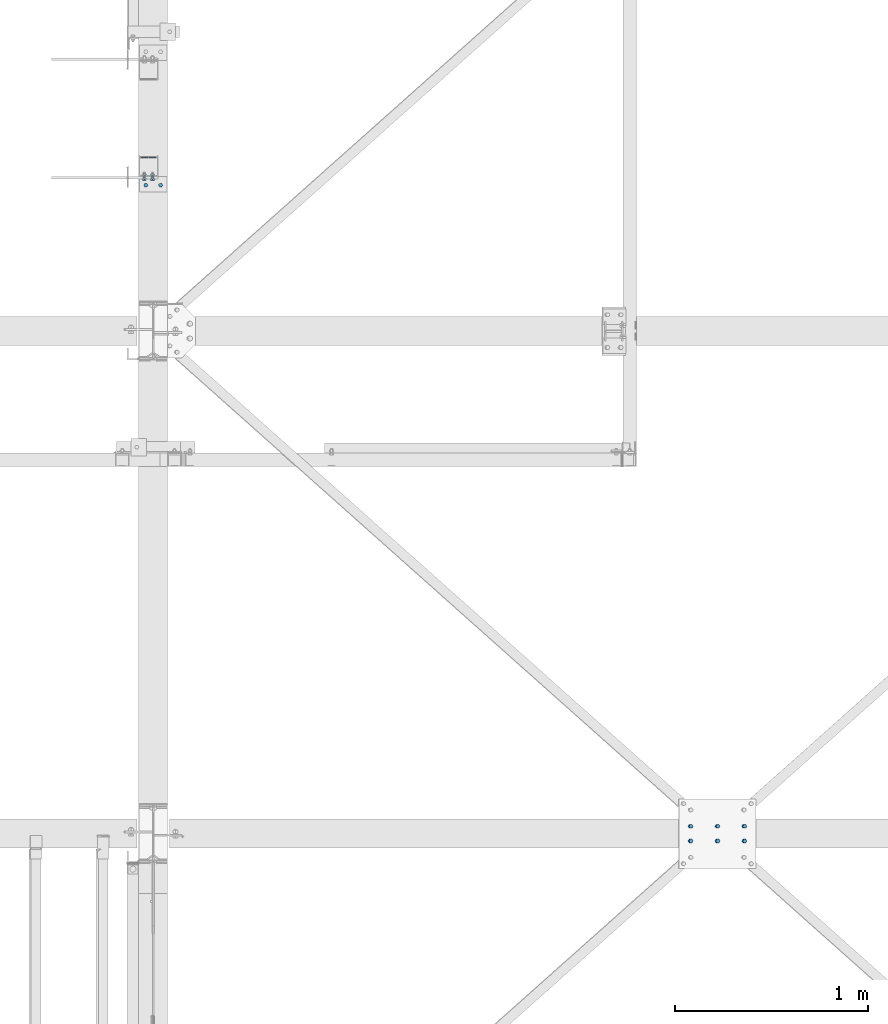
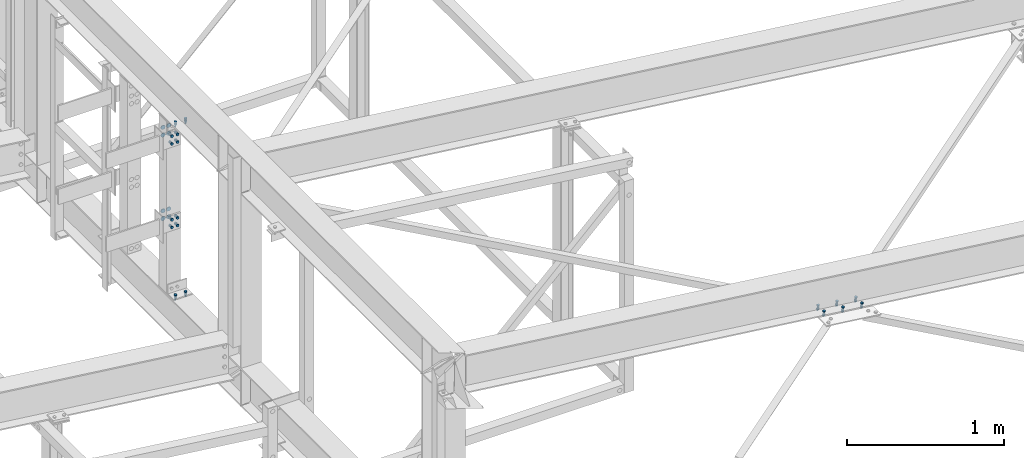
# One storey, part 156 of 3134: 7 mechanical fasteners, 4 elements without a shape of their own.
"""IFC2X3 building model written with IfcOpenShell, lengths in millimetres."""

from ifc_helpers import new_model, si_unit, frame, origin_with_axes, place, context, subcontext, project, spatial, faceted_brep, source, transform, mapped, material, type_object, element, aggregate, save


model = new_model("IFC2X3")

# Units and contexts
model_context = context("Model", 3, precision=1e-05, world=origin_with_axes())
body_context = subcontext(model_context, "Body", "Model", "MODEL_VIEW")
ifc_project = project(units=[si_unit("LENGTHUNIT", "METRE", prefix="MILLI"), si_unit("AREAUNIT", "SQUARE_METRE"), si_unit("VOLUMEUNIT", "CUBIC_METRE"), si_unit("MASSUNIT", "GRAM", prefix="KILO"), si_unit("TIMEUNIT", "SECOND"), si_unit("PLANEANGLEUNIT", "RADIAN"), si_unit("SOLIDANGLEUNIT", "STERADIAN"), si_unit("THERMODYNAMICTEMPERATUREUNIT", "DEGREE_CELSIUS"), si_unit("LUMINOUSINTENSITYUNIT", "LUMEN")], contexts=[model_context])

# Site, building, storey
site_placement = place(None, origin_with_axes())
site = spatial("IfcSite", under=ifc_project, at=site_placement, CompositionType="ELEMENT")
building_placement = place(site_placement, origin_with_axes())
building = spatial("IfcBuilding", under=site, at=building_placement, Name="Undefined", CompositionType="ELEMENT")
storey_placement = place(building_placement, origin_with_axes())
storey = spatial("IfcBuildingStorey", under=building, at=storey_placement, Name="Undefined", CompositionType="ELEMENT", Elevation=0.0)

# Assembly, mechanical fastener
assembly_1_placement = place(storey_placement, origin_with_axes())
assembly_1 = element("IfcElementAssembly", 1, at=assembly_1_placement, inside=storey, AssemblyPlace="NOTDEFINED", PredefinedType="RIGID_FRAME")
ifc_material = material(Name="8.8")
mechanical_fastener_type = type_object("IfcMechanicalFastenerType", Name="Bolt assembly")
shared_shape_1 = source(origin_with_axes(), body_context, "Body", "Brep", [
    faceted_brep([(10.9696551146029, -8.0, 0.0), (5.48482755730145, -8.0, 9.5), (-5.48482755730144, -8.0, 9.5), (-10.9696551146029, -8.0, 1.34339530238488e-15), (-5.48482755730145, -8.0, -9.5), (5.48482755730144, -8.0, -9.50000000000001), (5.48482755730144, 0.0, -9.50000000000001), (-5.48482755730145, 0.0, -9.5), (-10.9696551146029, 0.0, 1.34339530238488e-15), (-5.48482755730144, 0.0, 9.5), (5.48482755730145, 0.0, 9.5), (10.9696551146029, 0.0, 0.0), (6.0, 0.0, 0.0), (5.19615242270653, 0.0, 3.00000000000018), (2.99999999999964, 0.0, 5.19615242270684), (-6.21801588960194e-13, 0.0, 6.0), (-3.00000000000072, 0.0, 5.19615242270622), (-5.19615242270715, 0.0, 2.9999999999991), (-6.0, 0.0, -1.24360317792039e-12), (-5.19615242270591, 0.0, -3.00000000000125), (-2.99999999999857, 0.0, -5.19615242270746), (1.85874342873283e-12, 0.0, -6.0), (3.00000000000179, 0.0, -5.1961524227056), (5.19615242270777, 0.0, -2.99999999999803), (5.19615242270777, 35.0, -2.99999999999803), (3.00000000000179, 35.0, -5.1961524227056), (1.85874342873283e-12, 35.0, -6.0), (-2.99999999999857, 35.0, -5.19615242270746), (-5.19615242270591, 35.0, -3.00000000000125), (-6.0, 35.0, -1.24360317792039e-12), (-5.19615242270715, 35.0, 2.9999999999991), (-3.00000000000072, 35.0, 5.19615242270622), (-6.21801588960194e-13, 35.0, 6.0), (2.99999999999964, 35.0, 5.19615242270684), (5.19615242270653, 35.0, 3.00000000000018), (6.0, 35.0, 0.0), (10.9696551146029, 8.0, 0.0), (5.48482755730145, 8.0, 9.5), (-5.48482755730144, 8.0, 9.5), (-10.9696551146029, 8.0, 1.34339530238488e-15), (-5.48482755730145, 8.0, -9.5), (5.48482755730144, 8.0, -9.50000000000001), (5.48482755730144, 18.0, -9.50000000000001), (-5.48482755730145, 18.0, -9.5), (-10.9696551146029, 18.0, 1.34339530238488e-15), (-5.48482755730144, 18.0, 9.5), (5.48482755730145, 18.0, 9.5), (10.9696551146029, 18.0, 0.0)], [[[0, 1, 2, 3, 4, 5]], [[6, 7, 8, 9, 10, 11]], [[0, 11, 10, 1]], [[1, 10, 9, 2]], [[2, 9, 8, 3]], [[3, 8, 7, 4]], [[4, 7, 6, 5]], [[5, 6, 11, 0]], [[12, 13, 14, 15, 16, 17, 18, 19, 20, 21, 22, 23]], [[24, 25, 26, 27, 28, 29, 30, 31, 32, 33, 34, 35]], [[12, 35, 34, 13]], [[13, 34, 33, 14]], [[14, 33, 32, 15]], [[15, 32, 31, 16]], [[16, 31, 30, 17]], [[17, 30, 29, 18]], [[18, 29, 28, 19]], [[19, 28, 27, 20]], [[20, 27, 26, 21]], [[21, 26, 25, 22]], [[22, 25, 24, 23]], [[23, 24, 35, 12]], [[36, 37, 38, 39, 40, 41]], [[42, 43, 44, 45, 46, 47]], [[36, 47, 46, 37]], [[37, 46, 45, 38]], [[38, 45, 44, 39]], [[39, 44, 43, 40]], [[40, 43, 42, 41]], [[41, 42, 47, 36]]]),
    faceted_brep([(7.0, 0.0, 0.0), (6.06217782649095, 0.0, 3.50000000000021), (3.49999999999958, 0.0, 6.06217782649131), (-7.25435187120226e-13, 0.0, 7.0), (-3.50000000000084, 0.0, 6.06217782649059), (-6.06217782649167, 0.0, 3.49999999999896), (-7.0, 0.0, -1.45087037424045e-12), (-6.06217782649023, 0.0, -3.50000000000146), (-3.49999999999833, 0.0, -6.06217782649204), (2.1685340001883e-12, 0.0, -7.0), (3.50000000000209, 0.0, -6.06217782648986), (6.0621778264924, 0.0, -3.4999999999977), (6.0621778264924, 8.1, -3.4999999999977), (3.50000000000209, 8.1, -6.06217782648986), (2.1685340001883e-12, 8.1, -7.0), (-3.49999999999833, 8.1, -6.06217782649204), (-6.06217782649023, 8.1, -3.50000000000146), (-7.0, 8.1, -1.45087037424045e-12), (-6.06217782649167, 8.1, 3.49999999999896), (-3.50000000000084, 8.1, 6.06217782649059), (-7.25435187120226e-13, 8.1, 7.0), (3.49999999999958, 8.1, 6.06217782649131), (6.06217782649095, 8.1, 3.50000000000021), (7.0, 8.1, 0.0)], [[[0, 1, 2, 3, 4, 5, 6, 7, 8, 9, 10, 11]], [[12, 13, 14, 15, 16, 17, 18, 19, 20, 21, 22, 23]], [[0, 23, 22, 1]], [[1, 22, 21, 2]], [[2, 21, 20, 3]], [[3, 20, 19, 4]], [[4, 19, 18, 5]], [[5, 18, 17, 6]], [[6, 17, 16, 7]], [[7, 16, 15, 8]], [[8, 15, 14, 9]], [[9, 14, 13, 10]], [[10, 13, 12, 11]], [[11, 12, 23, 0]]]),
])
mechanical_fastener_1_placement = place(assembly_1_placement, frame((55837.0, 25405.0, 5593.0), z_axis=(0.0, 1.0, 0.0), x_axis=(1.0, 0.0, 0.0)))
mechanical_fastener_1 = element("IfcMechanicalFastener", 2, at=mechanical_fastener_1_placement, type_object=mechanical_fastener_type, material=ifc_material, Name="Bolt assembly", NominalDiameter=12.0, NominalLength=35.0, context=body_context, shape_type="MappedRepresentation", body=[
    mapped(shared_shape_1, transform((0.0, 0.0, 0.0))),
    mapped(shared_shape_1, transform((76.0, 0.0, 0.0))),
])
aggregate(assembly_1, [mechanical_fastener_1])

# Assembly, mechanical fasteners
assembly_2_placement = place(storey_placement, origin_with_axes())
assembly_2 = element("IfcElementAssembly", 3, at=assembly_2_placement, inside=storey, AssemblyPlace="NOTDEFINED", PredefinedType="RIGID_FRAME")
shared_shape_2 = source(origin_with_axes(), body_context, "Body", "Brep", [
    faceted_brep([(16.5, -4.0, 0.0), (14.289419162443, -4.0, 8.25000000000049), (8.24999999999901, -4.0, 14.2894191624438), (-1.70995436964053e-12, -4.0, 16.5), (-8.25000000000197, -4.0, 14.2894191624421), (-14.2894191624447, -4.0, 8.24999999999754), (-16.5, -4.0, -3.41990873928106e-12), (-14.2894191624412, -4.0, -8.25000000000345), (-8.24999999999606, -4.0, -14.2894191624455), (5.11154442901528e-12, -4.0, -16.5), (8.25000000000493, -4.0, -14.2894191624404), (14.2894191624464, -4.0, -8.24999999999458), (14.2894191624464, 0.1, -8.24999999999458), (8.25000000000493, 0.1, -14.2894191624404), (5.11154442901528e-12, 0.1, -16.5), (-8.24999999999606, 0.1, -14.2894191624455), (-14.2894191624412, 0.1, -8.25000000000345), (-16.5, 0.1, -3.41990873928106e-12), (-14.2894191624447, 0.1, 8.24999999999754), (-8.25000000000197, 0.1, 14.2894191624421), (-1.70995436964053e-12, 0.1, 16.5), (8.24999999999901, 0.1, 14.2894191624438), (14.289419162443, 0.1, 8.25000000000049), (16.5, 0.1, 0.0)], [[[0, 1, 2, 3, 4, 5, 6, 7, 8, 9, 10, 11]], [[12, 13, 14, 15, 16, 17, 18, 19, 20, 21, 22, 23]], [[0, 23, 22, 1]], [[1, 22, 21, 2]], [[2, 21, 20, 3]], [[3, 20, 19, 4]], [[4, 19, 18, 5]], [[5, 18, 17, 6]], [[6, 17, 16, 7]], [[7, 16, 15, 8]], [[8, 15, 14, 9]], [[9, 14, 13, 10]], [[10, 13, 12, 11]], [[11, 12, 23, 0]]]),
])
mechanical_fastener_2_placement = place(assembly_2_placement, frame((55850.0, 25550.0, 5470.0), z_axis=(1.0, 0.0, 0.0), x_axis=(0.0, 0.0, -1.0)))
mechanical_fastener_2 = element("IfcMechanicalFastener", 4, at=mechanical_fastener_2_placement, type_object=mechanical_fastener_type, material=ifc_material, Name="Bolt assembly", NominalDiameter=30.0, NominalLength=4.0, context=body_context, shape_type="MappedRepresentation", body=[
    mapped(shared_shape_2, transform((0.0, 0.0, -21.0))),
    mapped(shared_shape_2, transform((60.0, 0.0, -21.0))),
    mapped(shared_shape_2, transform((0.0, 0.0, 21.0))),
    mapped(shared_shape_2, transform((60.0, 0.0, 21.0))),
])
mechanical_fastener_3_placement = place(assembly_2_placement, frame((55850.0, 25550.0, 4820.0), z_axis=(1.0, 0.0, 0.0), x_axis=(0.0, 0.0, -1.0)))
mechanical_fastener_3 = element("IfcMechanicalFastener", 5, at=mechanical_fastener_3_placement, type_object=mechanical_fastener_type, material=ifc_material, Name="Bolt assembly", NominalDiameter=30.0, NominalLength=4.0, context=body_context, shape_type="MappedRepresentation", body=[
    mapped(shared_shape_2, transform((0.0, 0.0, -21.0))),
    mapped(shared_shape_2, transform((60.0, 0.0, -21.0))),
    mapped(shared_shape_2, transform((0.0, 0.0, 21.0))),
    mapped(shared_shape_2, transform((60.0, 0.0, 21.0))),
])
shared_shape_3 = source(origin_with_axes(), body_context, "Body", "Brep", [
    faceted_brep([(10.9696551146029, -20.0, 0.0), (5.48482755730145, -20.0, 9.5), (-5.48482755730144, -20.0, 9.5), (-10.9696551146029, -20.0, 1.34339530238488e-15), (-5.48482755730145, -20.0, -9.5), (5.48482755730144, -20.0, -9.50000000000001), (5.48482755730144, -12.0, -9.50000000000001), (-5.48482755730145, -12.0, -9.5), (-10.9696551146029, -12.0, 1.34339530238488e-15), (-5.48482755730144, -12.0, 9.5), (5.48482755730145, -12.0, 9.5), (10.9696551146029, -12.0, 0.0), (6.0, -12.0, 0.0), (5.19615242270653, -12.0, 3.00000000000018), (2.99999999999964, -12.0, 5.19615242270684), (-6.21801588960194e-13, -12.0, 6.0), (-3.00000000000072, -12.0, 5.19615242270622), (-5.19615242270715, -12.0, 2.9999999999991), (-6.0, -12.0, -1.24360317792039e-12), (-5.19615242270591, -12.0, -3.00000000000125), (-2.99999999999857, -12.0, -5.19615242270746), (1.85874342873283e-12, -12.0, -6.0), (3.00000000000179, -12.0, -5.1961524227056), (5.19615242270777, -12.0, -2.99999999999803), (5.19615242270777, 18.0, -2.99999999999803), (3.00000000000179, 18.0, -5.1961524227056), (1.85874342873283e-12, 18.0, -6.0), (-2.99999999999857, 18.0, -5.19615242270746), (-5.19615242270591, 18.0, -3.00000000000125), (-6.0, 18.0, -1.24360317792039e-12), (-5.19615242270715, 18.0, 2.9999999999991), (-3.00000000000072, 18.0, 5.19615242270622), (-6.21801588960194e-13, 18.0, 6.0), (2.99999999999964, 18.0, 5.19615242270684), (5.19615242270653, 18.0, 3.00000000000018), (6.0, 18.0, 0.0), (10.9696551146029, 4.00000000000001, 0.0), (5.48482755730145, 4.00000000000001, 9.5), (-5.48482755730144, 4.00000000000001, 9.5), (-10.9696551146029, 4.00000000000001, 1.34339530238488e-15), (-5.48482755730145, 4.00000000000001, -9.5), (5.48482755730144, 4.00000000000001, -9.50000000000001), (5.48482755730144, 14.0, -9.50000000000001), (-5.48482755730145, 14.0, -9.5), (-10.9696551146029, 14.0, 1.34339530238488e-15), (-5.48482755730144, 14.0, 9.5), (5.48482755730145, 14.0, 9.5), (10.9696551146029, 14.0, 0.0)], [[[0, 1, 2, 3, 4, 5]], [[6, 7, 8, 9, 10, 11]], [[0, 11, 10, 1]], [[1, 10, 9, 2]], [[2, 9, 8, 3]], [[3, 8, 7, 4]], [[4, 7, 6, 5]], [[5, 6, 11, 0]], [[12, 13, 14, 15, 16, 17, 18, 19, 20, 21, 22, 23]], [[24, 25, 26, 27, 28, 29, 30, 31, 32, 33, 34, 35]], [[12, 35, 34, 13]], [[13, 34, 33, 14]], [[14, 33, 32, 15]], [[15, 32, 31, 16]], [[16, 31, 30, 17]], [[17, 30, 29, 18]], [[18, 29, 28, 19]], [[19, 28, 27, 20]], [[20, 27, 26, 21]], [[21, 26, 25, 22]], [[22, 25, 24, 23]], [[23, 24, 35, 12]], [[36, 37, 38, 39, 40, 41]], [[42, 43, 44, 45, 46, 47]], [[36, 47, 46, 37]], [[37, 46, 45, 38]], [[38, 45, 44, 39]], [[39, 44, 43, 40]], [[40, 43, 42, 41]], [[41, 42, 47, 36]]]),
    faceted_brep([(7.0, -11.9, 0.0), (6.06217782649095, -11.9, 3.50000000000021), (3.49999999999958, -11.9, 6.06217782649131), (-7.25435187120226e-13, -11.9, 7.0), (-3.50000000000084, -11.9, 6.06217782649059), (-6.06217782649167, -11.9, 3.49999999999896), (-7.0, -11.9, -1.45087037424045e-12), (-6.06217782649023, -11.9, -3.50000000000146), (-3.49999999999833, -11.9, -6.06217782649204), (2.1685340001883e-12, -11.9, -7.0), (3.50000000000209, -11.9, -6.06217782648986), (6.0621778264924, -11.9, -3.4999999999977), (6.0621778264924, 0.0999999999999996, -3.4999999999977), (3.50000000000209, 0.0999999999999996, -6.06217782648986), (2.1685340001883e-12, 0.0999999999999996, -7.0), (-3.49999999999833, 0.0999999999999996, -6.06217782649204), (-6.06217782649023, 0.0999999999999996, -3.50000000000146), (-7.0, 0.0999999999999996, -1.45087037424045e-12), (-6.06217782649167, 0.0999999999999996, 3.49999999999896), (-3.50000000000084, 0.0999999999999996, 6.06217782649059), (-7.25435187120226e-13, 0.0999999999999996, 7.0), (3.49999999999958, 0.0999999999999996, 6.06217782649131), (6.06217782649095, 0.0999999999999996, 3.50000000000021), (7.0, 0.0999999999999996, 0.0), (7.0, -0.1, 0.0), (6.06217782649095, -0.1, 3.50000000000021), (3.49999999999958, -0.1, 6.06217782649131), (-7.25435187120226e-13, -0.1, 7.0), (-3.50000000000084, -0.1, 6.06217782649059), (-6.06217782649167, -0.1, 3.49999999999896), (-7.0, -0.1, -1.45087037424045e-12), (-6.06217782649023, -0.1, -3.50000000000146), (-3.49999999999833, -0.1, -6.06217782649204), (2.1685340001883e-12, -0.1, -7.0), (3.50000000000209, -0.1, -6.06217782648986), (6.0621778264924, -0.1, -3.4999999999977), (6.0621778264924, 4.00000000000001, -3.4999999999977), (3.50000000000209, 4.00000000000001, -6.06217782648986), (2.1685340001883e-12, 4.00000000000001, -7.0), (-3.49999999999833, 4.00000000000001, -6.06217782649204), (-6.06217782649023, 4.00000000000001, -3.50000000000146), (-7.0, 4.00000000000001, -1.45087037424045e-12), (-6.06217782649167, 4.00000000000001, 3.49999999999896), (-3.50000000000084, 4.00000000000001, 6.06217782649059), (-7.25435187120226e-13, 4.00000000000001, 7.0), (3.49999999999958, 4.00000000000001, 6.06217782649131), (6.06217782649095, 4.00000000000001, 3.50000000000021), (7.0, 4.00000000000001, 0.0)], [[[0, 1, 2, 3, 4, 5, 6, 7, 8, 9, 10, 11]], [[12, 13, 14, 15, 16, 17, 18, 19, 20, 21, 22, 23]], [[0, 23, 22, 1]], [[1, 22, 21, 2]], [[2, 21, 20, 3]], [[3, 20, 19, 4]], [[4, 19, 18, 5]], [[5, 18, 17, 6]], [[6, 17, 16, 7]], [[7, 16, 15, 8]], [[8, 15, 14, 9]], [[9, 14, 13, 10]], [[10, 13, 12, 11]], [[11, 12, 23, 0]], [[24, 25, 26, 27, 28, 29, 30, 31, 32, 33, 34, 35]], [[36, 37, 38, 39, 40, 41, 42, 43, 44, 45, 46, 47]], [[24, 47, 46, 25]], [[25, 46, 45, 26]], [[26, 45, 44, 27]], [[27, 44, 43, 28]], [[28, 43, 42, 29]], [[29, 42, 41, 30]], [[30, 41, 40, 31]], [[31, 40, 39, 32]], [[32, 39, 38, 33]], [[33, 38, 37, 34]], [[34, 37, 36, 35]], [[35, 36, 47, 24]]]),
])
mechanical_fastener_4_placement = place(assembly_2_placement, frame((55850.0, 25450.0, 5470.0), z_axis=(1.0, 0.0, 0.0), x_axis=(0.0, 0.0, -1.0)))
mechanical_fastener_4 = element("IfcMechanicalFastener", 6, at=mechanical_fastener_4_placement, type_object=mechanical_fastener_type, material=ifc_material, Name="Bolt assembly", NominalDiameter=12.0, NominalLength=30.0, context=body_context, shape_type="MappedRepresentation", body=[
    mapped(shared_shape_3, transform((0.0, 0.0, -21.0))),
    mapped(shared_shape_3, transform((60.0, 0.0, -21.0))),
    mapped(shared_shape_3, transform((0.0, 0.0, 21.0))),
    mapped(shared_shape_3, transform((60.0, 0.0, 21.0))),
])
mechanical_fastener_5_placement = place(assembly_2_placement, frame((55850.0, 25450.0, 4820.0), z_axis=(1.0, 0.0, 0.0), x_axis=(0.0, 0.0, -1.0)))
mechanical_fastener_5 = element("IfcMechanicalFastener", 7, at=mechanical_fastener_5_placement, type_object=mechanical_fastener_type, material=ifc_material, Name="Bolt assembly", NominalDiameter=12.0, NominalLength=30.0, context=body_context, shape_type="MappedRepresentation", body=[
    mapped(shared_shape_3, transform((0.0, 0.0, -21.0))),
    mapped(shared_shape_3, transform((60.0, 0.0, -21.0))),
    mapped(shared_shape_3, transform((0.0, 0.0, 21.0))),
    mapped(shared_shape_3, transform((60.0, 0.0, 21.0))),
])
aggregate(assembly_2, [mechanical_fastener_4, mechanical_fastener_2, mechanical_fastener_5, mechanical_fastener_3])

# Assembly, mechanical fastener
assembly_3_placement = place(storey_placement, origin_with_axes())
assembly_3 = element("IfcElementAssembly", 8, at=assembly_3_placement, inside=storey, AssemblyPlace="NOTDEFINED", PredefinedType="RIGID_FRAME")
shared_shape_4 = source(origin_with_axes(), body_context, "Body", "Brep", [
    faceted_brep([(10.9696551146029, -16.0, 0.0), (5.48482755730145, -16.0, 9.5), (-5.48482755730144, -16.0, 9.5), (-10.9696551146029, -16.0, 1.34339530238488e-15), (-5.48482755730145, -16.0, -9.5), (5.48482755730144, -16.0, -9.50000000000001), (5.48482755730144, -8.0, -9.50000000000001), (-5.48482755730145, -8.0, -9.5), (-10.9696551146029, -8.0, 1.34339530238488e-15), (-5.48482755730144, -8.0, 9.5), (5.48482755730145, -8.0, 9.5), (10.9696551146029, -8.0, 0.0), (6.0, -8.0, 0.0), (5.19615242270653, -8.0, 3.00000000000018), (2.99999999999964, -8.0, 5.19615242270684), (-6.21801588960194e-13, -8.0, 6.0), (-3.00000000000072, -8.0, 5.19615242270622), (-5.19615242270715, -8.0, 2.9999999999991), (-6.0, -8.0, -1.24360317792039e-12), (-5.19615242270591, -8.0, -3.00000000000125), (-2.99999999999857, -8.0, -5.19615242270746), (1.85874342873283e-12, -8.0, -6.0), (3.00000000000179, -8.0, -5.1961524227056), (5.19615242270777, -8.0, -2.99999999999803), (5.19615242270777, 27.0, -2.99999999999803), (3.00000000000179, 27.0, -5.1961524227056), (1.85874342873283e-12, 27.0, -6.0), (-2.99999999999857, 27.0, -5.19615242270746), (-5.19615242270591, 27.0, -3.00000000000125), (-6.0, 27.0, -1.24360317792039e-12), (-5.19615242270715, 27.0, 2.9999999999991), (-3.00000000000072, 27.0, 5.19615242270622), (-6.21801588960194e-13, 27.0, 6.0), (2.99999999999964, 27.0, 5.19615242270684), (5.19615242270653, 27.0, 3.00000000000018), (6.0, 27.0, 0.0), (10.9696551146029, 0.0, 0.0), (5.48482755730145, 0.0, 9.5), (-5.48482755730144, 0.0, 9.5), (-10.9696551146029, 0.0, 1.34339530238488e-15), (-5.48482755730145, 0.0, -9.5), (5.48482755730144, 0.0, -9.50000000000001), (5.48482755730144, 10.0, -9.50000000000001), (-5.48482755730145, 10.0, -9.5), (-10.9696551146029, 10.0, 1.34339530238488e-15), (-5.48482755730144, 10.0, 9.5), (5.48482755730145, 10.0, 9.5), (10.9696551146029, 10.0, 0.0)], [[[0, 1, 2, 3, 4, 5]], [[6, 7, 8, 9, 10, 11]], [[0, 11, 10, 1]], [[1, 10, 9, 2]], [[2, 9, 8, 3]], [[3, 8, 7, 4]], [[4, 7, 6, 5]], [[5, 6, 11, 0]], [[12, 13, 14, 15, 16, 17, 18, 19, 20, 21, 22, 23]], [[24, 25, 26, 27, 28, 29, 30, 31, 32, 33, 34, 35]], [[12, 35, 34, 13]], [[13, 34, 33, 14]], [[14, 33, 32, 15]], [[15, 32, 31, 16]], [[16, 31, 30, 17]], [[17, 30, 29, 18]], [[18, 29, 28, 19]], [[19, 28, 27, 20]], [[20, 27, 26, 21]], [[21, 26, 25, 22]], [[22, 25, 24, 23]], [[23, 24, 35, 12]], [[36, 37, 38, 39, 40, 41]], [[42, 43, 44, 45, 46, 47]], [[36, 47, 46, 37]], [[37, 46, 45, 38]], [[38, 45, 44, 39]], [[39, 44, 43, 40]], [[40, 43, 42, 41]], [[41, 42, 47, 36]]]),
    faceted_brep([(7.0, -8.0, 0.0), (6.06217782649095, -8.0, 3.50000000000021), (3.49999999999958, -8.0, 6.06217782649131), (-7.25435187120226e-13, -8.0, 7.0), (-3.50000000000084, -8.0, 6.06217782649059), (-6.06217782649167, -8.0, 3.49999999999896), (-7.0, -8.0, -1.45087037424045e-12), (-6.06217782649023, -8.0, -3.50000000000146), (-3.49999999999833, -8.0, -6.06217782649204), (2.1685340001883e-12, -8.0, -7.0), (3.50000000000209, -8.0, -6.06217782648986), (6.0621778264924, -8.0, -3.4999999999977), (6.0621778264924, 0.0999999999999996, -3.4999999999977), (3.50000000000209, 0.0999999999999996, -6.06217782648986), (2.1685340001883e-12, 0.0999999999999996, -7.0), (-3.49999999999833, 0.0999999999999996, -6.06217782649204), (-6.06217782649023, 0.0999999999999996, -3.50000000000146), (-7.0, 0.0999999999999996, -1.45087037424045e-12), (-6.06217782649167, 0.0999999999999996, 3.49999999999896), (-3.50000000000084, 0.0999999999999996, 6.06217782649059), (-7.25435187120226e-13, 0.0999999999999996, 7.0), (3.49999999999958, 0.0999999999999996, 6.06217782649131), (6.06217782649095, 0.0999999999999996, 3.50000000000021), (7.0, 0.0999999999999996, 0.0)], [[[0, 1, 2, 3, 4, 5, 6, 7, 8, 9, 10, 11]], [[12, 13, 14, 15, 16, 17, 18, 19, 20, 21, 22, 23]], [[0, 23, 22, 1]], [[1, 22, 21, 2]], [[2, 21, 20, 3]], [[3, 20, 19, 4]], [[4, 19, 18, 5]], [[5, 18, 17, 6]], [[6, 17, 16, 7]], [[7, 16, 15, 8]], [[8, 15, 14, 9]], [[9, 14, 13, 10]], [[10, 13, 12, 11]], [[11, 12, 23, 0]]]),
])
mechanical_fastener_6_placement = place(assembly_3_placement, frame((55837.0, 25405.0, 4237.0), z_axis=(0.0, 1.0, 0.0), x_axis=(1.0, 0.0, 0.0)))
mechanical_fastener_6 = element("IfcMechanicalFastener", 9, at=mechanical_fastener_6_placement, type_object=mechanical_fastener_type, material=ifc_material, Name="Bolt assembly", NominalDiameter=12.0, NominalLength=35.0, context=body_context, shape_type="MappedRepresentation", body=[
    mapped(shared_shape_4, transform((0.0, 0.0, 0.0))),
    mapped(shared_shape_4, transform((76.0, 0.0, 0.0))),
])
aggregate(assembly_3, [mechanical_fastener_6])

assembly_4_placement = place(storey_placement, origin_with_axes())
assembly_4 = element("IfcElementAssembly", 10, at=assembly_4_placement, inside=storey, Name="300", AssemblyPlace="NOTDEFINED", PredefinedType="RIGID_FRAME")
shared_shape_5 = source(origin_with_axes(), body_context, "Body", "Brep", [
    faceted_brep([(10.9696551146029, -17.1999998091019, 0.0), (5.48482755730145, -17.1999998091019, 9.5), (-5.48482755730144, -17.1999998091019, 9.5), (-10.9696551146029, -17.1999998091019, 1.34339530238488e-15), (-5.48482755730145, -17.1999998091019, -9.5), (5.48482755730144, -17.1999998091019, -9.50000000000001), (5.48482755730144, -9.19999978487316, -9.50000000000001), (-5.48482755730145, -9.19999978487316, -9.5), (-10.9696551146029, -9.19999978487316, 1.34339530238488e-15), (-5.48482755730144, -9.19999978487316, 9.5), (5.48482755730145, -9.19999978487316, 9.5), (10.9696551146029, -9.19999978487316, 0.0), (6.0, -9.19999978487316, 0.0), (5.19615242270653, -9.19999978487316, 3.00000000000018), (2.99999999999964, -9.19999978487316, 5.19615242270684), (-6.21801588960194e-13, -9.19999978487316, 6.0), (-3.00000000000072, -9.19999978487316, 5.19615242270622), (-5.19615242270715, -9.19999978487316, 2.9999999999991), (-6.0, -9.19999978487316, -1.24360317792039e-12), (-5.19615242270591, -9.19999978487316, -3.00000000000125), (-2.99999999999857, -9.19999978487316, -5.19615242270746), (1.85874342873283e-12, -9.19999978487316, -6.0), (3.00000000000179, -9.19999978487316, -5.1961524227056), (5.19615242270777, -9.19999978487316, -2.99999999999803), (5.19615242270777, 25.8000002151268, -2.99999999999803), (3.00000000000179, 25.8000002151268, -5.1961524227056), (1.85874342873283e-12, 25.8000002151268, -6.0), (-2.99999999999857, 25.8000002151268, -5.19615242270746), (-5.19615242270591, 25.8000002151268, -3.00000000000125), (-6.0, 25.8000002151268, -1.24360317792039e-12), (-5.19615242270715, 25.8000002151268, 2.9999999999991), (-3.00000000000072, 25.8000002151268, 5.19615242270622), (-6.21801588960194e-13, 25.8000002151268, 6.0), (2.99999999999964, 25.8000002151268, 5.19615242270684), (5.19615242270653, 25.8000002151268, 3.00000000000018), (6.0, 25.8000002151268, 0.0), (10.9696551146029, 8.0, 0.0), (5.48482755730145, 8.0, 9.5), (-5.48482755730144, 8.0, 9.5), (-10.9696551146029, 8.0, 1.34339530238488e-15), (-5.48482755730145, 8.0, -9.5), (5.48482755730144, 8.0, -9.50000000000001), (5.48482755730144, 18.0, -9.50000000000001), (-5.48482755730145, 18.0, -9.5), (-10.9696551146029, 18.0, 1.34339530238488e-15), (-5.48482755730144, 18.0, 9.5), (5.48482755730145, 18.0, 9.5), (10.9696551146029, 18.0, 0.0)], [[[0, 1, 2, 3, 4, 5]], [[6, 7, 8, 9, 10, 11]], [[0, 11, 10, 1]], [[1, 10, 9, 2]], [[2, 9, 8, 3]], [[3, 8, 7, 4]], [[4, 7, 6, 5]], [[5, 6, 11, 0]], [[12, 13, 14, 15, 16, 17, 18, 19, 20, 21, 22, 23]], [[24, 25, 26, 27, 28, 29, 30, 31, 32, 33, 34, 35]], [[12, 35, 34, 13]], [[13, 34, 33, 14]], [[14, 33, 32, 15]], [[15, 32, 31, 16]], [[16, 31, 30, 17]], [[17, 30, 29, 18]], [[18, 29, 28, 19]], [[19, 28, 27, 20]], [[20, 27, 26, 21]], [[21, 26, 25, 22]], [[22, 25, 24, 23]], [[23, 24, 35, 12]], [[36, 37, 38, 39, 40, 41]], [[42, 43, 44, 45, 46, 47]], [[36, 47, 46, 37]], [[37, 46, 45, 38]], [[38, 45, 44, 39]], [[39, 44, 43, 40]], [[40, 43, 42, 41]], [[41, 42, 47, 36]]]),
    faceted_brep([(7.0, -0.1, 0.0), (6.06217782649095, -0.1, 3.50000000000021), (3.49999999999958, -0.1, 6.06217782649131), (-7.25435187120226e-13, -0.1, 7.0), (-3.50000000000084, -0.1, 6.06217782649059), (-6.06217782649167, -0.1, 3.49999999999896), (-7.0, -0.1, -1.45087037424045e-12), (-6.06217782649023, -0.1, -3.50000000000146), (-3.49999999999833, -0.1, -6.06217782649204), (2.1685340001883e-12, -0.1, -7.0), (3.50000000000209, -0.1, -6.06217782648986), (6.0621778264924, -0.1, -3.4999999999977), (6.0621778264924, 8.0000000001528, -3.4999999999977), (3.50000000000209, 8.0000000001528, -6.06217782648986), (2.1685340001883e-12, 8.0000000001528, -7.0), (-3.49999999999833, 8.0000000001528, -6.06217782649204), (-6.06217782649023, 8.0000000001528, -3.50000000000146), (-7.0, 8.0000000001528, -1.45087037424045e-12), (-6.06217782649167, 8.0000000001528, 3.49999999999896), (-3.50000000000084, 8.0000000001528, 6.06217782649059), (-7.25435187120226e-13, 8.0000000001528, 7.0), (3.49999999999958, 8.0000000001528, 6.06217782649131), (6.06217782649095, 8.0000000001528, 3.50000000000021), (7.0, 8.0000000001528, 0.0), (7.0, -9.09999980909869, 0.0), (6.06217782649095, -9.09999980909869, 3.50000000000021), (3.49999999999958, -9.09999980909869, 6.06217782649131), (-7.25435187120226e-13, -9.09999980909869, 7.0), (-3.50000000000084, -9.09999980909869, 6.06217782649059), (-6.06217782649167, -9.09999980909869, 3.49999999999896), (-7.0, -9.09999980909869, -1.45087037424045e-12), (-6.06217782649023, -9.09999980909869, -3.50000000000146), (-3.49999999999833, -9.09999980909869, -6.06217782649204), (2.1685340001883e-12, -9.09999980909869, -7.0), (3.50000000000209, -9.09999980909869, -6.06217782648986), (6.0621778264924, -9.09999980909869, -3.4999999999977), (6.0621778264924, 0.0999999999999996, -3.4999999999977), (3.50000000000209, 0.0999999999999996, -6.06217782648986), (2.1685340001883e-12, 0.0999999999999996, -7.0), (-3.49999999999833, 0.0999999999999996, -6.06217782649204), (-6.06217782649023, 0.0999999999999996, -3.50000000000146), (-7.0, 0.0999999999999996, -1.45087037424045e-12), (-6.06217782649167, 0.0999999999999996, 3.49999999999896), (-3.50000000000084, 0.0999999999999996, 6.06217782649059), (-7.25435187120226e-13, 0.0999999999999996, 7.0), (3.49999999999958, 0.0999999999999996, 6.06217782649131), (6.06217782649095, 0.0999999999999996, 3.50000000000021), (7.0, 0.0999999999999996, 0.0)], [[[0, 1, 2, 3, 4, 5, 6, 7, 8, 9, 10, 11]], [[12, 13, 14, 15, 16, 17, 18, 19, 20, 21, 22, 23]], [[0, 23, 22, 1]], [[1, 22, 21, 2]], [[2, 21, 20, 3]], [[3, 20, 19, 4]], [[4, 19, 18, 5]], [[5, 18, 17, 6]], [[6, 17, 16, 7]], [[7, 16, 15, 8]], [[8, 15, 14, 9]], [[9, 14, 13, 10]], [[10, 13, 12, 11]], [[11, 12, 23, 0]], [[24, 25, 26, 27, 28, 29, 30, 31, 32, 33, 34, 35]], [[36, 37, 38, 39, 40, 41, 42, 43, 44, 45, 46, 47]], [[24, 47, 46, 25]], [[25, 46, 45, 26]], [[26, 45, 44, 27]], [[27, 44, 43, 28]], [[28, 43, 42, 29]], [[29, 42, 41, 30]], [[30, 41, 40, 31]], [[31, 40, 39, 32]], [[32, 39, 38, 33]], [[33, 38, 37, 34]], [[34, 37, 36, 35]], [[35, 36, 47, 24]]]),
])
mechanical_fastener_7_placement = place(assembly_4_placement, frame((58933.2022067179, 22050.0, 5146.25993624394), z_axis=(0.0, -1.0, 0.0), x_axis=(-0.992623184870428, 0.0, 0.121240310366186)))
mechanical_fastener_7 = element("IfcMechanicalFastener", 11, at=mechanical_fastener_7_placement, type_object=mechanical_fastener_type, material=ifc_material, Name="Bolt assembly", NominalDiameter=12.0, NominalLength=35.0, context=body_context, shape_type="MappedRepresentation", body=[
    mapped(shared_shape_5, transform((0.0, 0.0, -38.0))),
    mapped(shared_shape_5, transform((140.000000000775, 5.85714587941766e-10, -38.0))),
    mapped(shared_shape_5, transform((279.999999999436, -4.74756234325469e-10, -38.0))),
    mapped(shared_shape_5, transform((0.0, 0.0, 38.0))),
    mapped(shared_shape_5, transform((140.000000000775, 5.85714587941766e-10, 38.0))),
    mapped(shared_shape_5, transform((279.999999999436, -4.74756234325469e-10, 38.0))),
])
aggregate(assembly_4, [mechanical_fastener_7])

save(model, "model.ifc")
